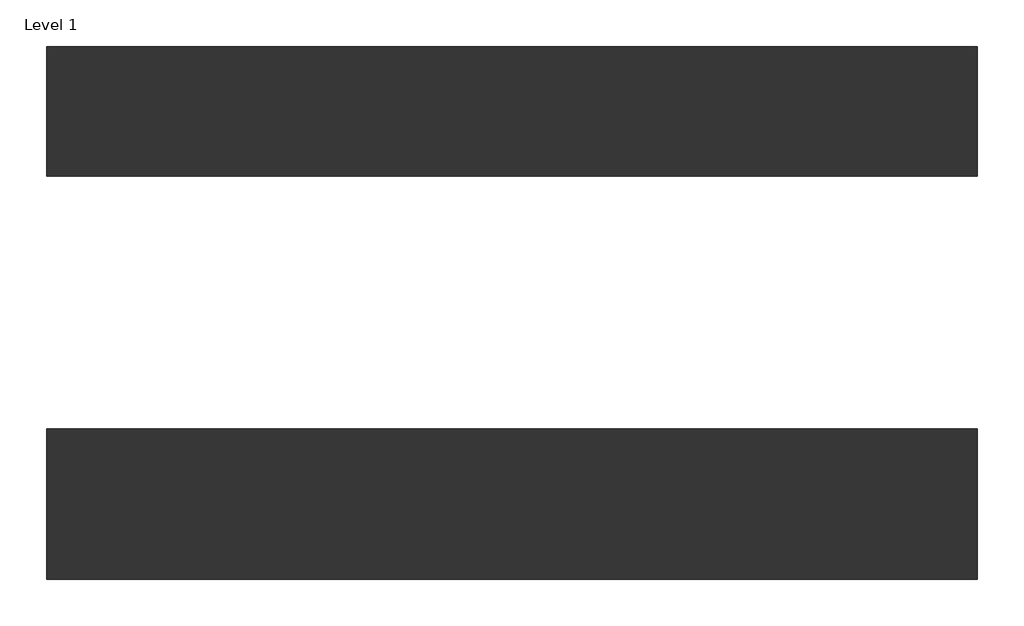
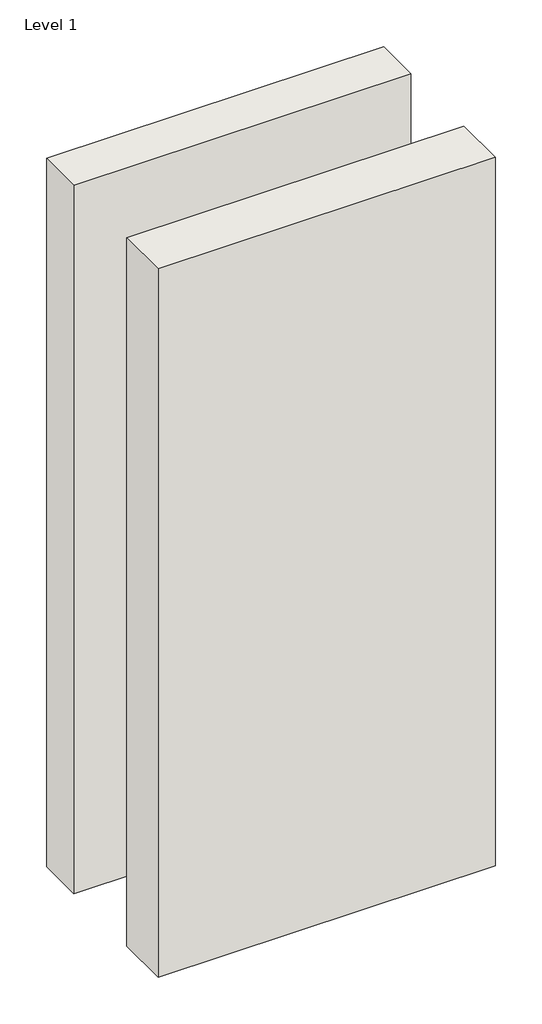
# One storey: 2 walls.
"""IFC4 building model written with IfcOpenShell, lengths in millimetres."""

from ifc_helpers import new_model, si_unit, origin, origin_with_axes, place, context, project, spatial, polyline, outline, extrude, element, save

model = new_model("IFC4")

# Units and contexts
model_context = context("Model", 3, world=origin())
ifc_project = project(units=[si_unit("LENGTHUNIT", "METRE", prefix="MILLI")], contexts=[model_context])

# Site, building, storey
site = spatial("IfcSite", under=ifc_project)
building = spatial("IfcBuilding", under=site)
storey = spatial("IfcBuildingStorey", under=building, Name="Level 1", Elevation=0.0)

# Walls
placement = place(None, origin())
element("IfcWall", 1, ObjectType="Interior-Timber Frame-Party Wall with 25mm Fire Barrier-CSR2455-251mm", at=placement, inside=storey, context=model_context, shape_type="SweptSolid", body=[
    extrude(outline(polyline([(1209.1027791, -2891.0592728), (3009.1027791, -2891.0592728), (3009.1027791, -3142.0592728), (1209.1027791, -3142.0592728), (1209.1027791, -2891.0592728)])), origin_with_axes(), (0.0, 0.0, 1.0), 4000.0),
])
element("IfcWall", 2, ObjectType="Interior-Timber Frame-Party Wall with 25mm Fire Barrier-CSR2455-291mm", at=placement, inside=storey, context=model_context, shape_type="SweptSolid", body=[
    extrude(outline(polyline([(1209.1027791, -3631.0592728), (3009.1027791, -3631.0592728), (3009.1027791, -3922.0592728), (1209.1027791, -3922.0592728), (1209.1027791, -3631.0592728)])), origin_with_axes(), (0.0, 0.0, 1.0), 4000.0),
])

save(model, "model.ifc")
